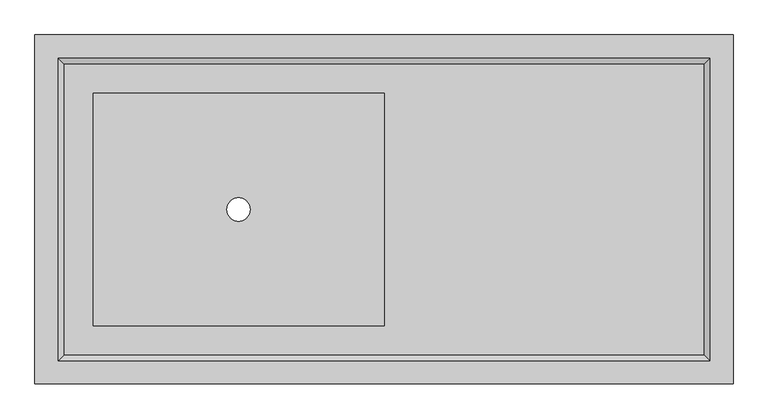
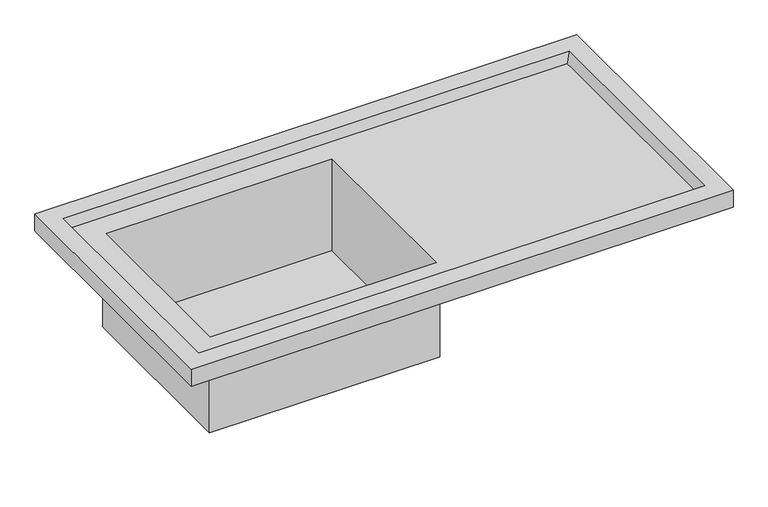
"""IFC4 building model written with IfcOpenShell, lengths in millimetres: flow terminal geometry, BIMHealth-Stainless_Steel_Sink-LOD2A-v1 : BIMHealth-Stainless_Steel_Sink-LOD2A-v1."""

import ifcopenshell
import ifcopenshell.guid

model = None  # the IFC model being written
_history = None  # IfcOwnerHistory: only IFC2X3 demands one
_inside = {}  # id of a spatial element -> (the spatial element, [elements in it])
_under = {}  # id of a project, library or spatial element -> (it, [spatial elements below it])
_declared = {}  # id of a project -> (the project, [libraries it declares])
_typed = {}  # id of a type object -> (the type object, [elements of that type])
_made_of = {}  # id of a material, layer set ... -> (it, [elements and type objects made of it])


def new_model(schema):
    """Start an empty IFC model of exactly this schema.

    Asked for "IFC4X3", IfcOpenShell would pick the latest addendum, in which some entities
    have other attributes; the version numbers below select the first issue.
    IFC2X3 requires an IfcOwnerHistory on every rooted entity: one is made here for all.
    """
    global model, _history
    if schema == "IFC4X3":
        model = ifcopenshell.file(schema_version=(4, 3, 0, 0))
    else:
        model = ifcopenshell.file(schema=schema)
    _inside.clear()
    _under.clear()
    _declared.clear()
    _typed.clear()
    _made_of.clear()
    _history = None
    if model.schema == "IFC2X3":
        org = make("IfcOrganization", Name="unknown")
        user = make(
            "IfcPersonAndOrganization",
            ThePerson=make("IfcPerson", FamilyName="unknown"),
            TheOrganization=org,
        )
        app = make(
            "IfcApplication",
            ApplicationDeveloper=org,
            Version="unknown",
            ApplicationFullName="unknown",
            ApplicationIdentifier="unknown",
        )
        _history = make(
            "IfcOwnerHistory",
            OwningUser=user,
            OwningApplication=app,
            ChangeAction="ADDED",
            CreationDate=0,
        )
    return model


def make(cls, **values):
    """One entity of the class cls with the attributes given. An attribute that is None is left unset."""
    return model.create_entity(
        cls, **{name: value for name, value in values.items() if value is not None}
    )


def rooted(cls, **values):
    """An entity with a GlobalId (a new one), such as an element, a storey or a relation."""
    return make(cls, GlobalId=ifcopenshell.guid.new(), OwnerHistory=_history, **values)


def si_unit(unit_type, name, prefix=None):
    """IfcSIUnit, for example si_unit("LENGTHUNIT", "METRE", prefix="MILLI")."""
    return make("IfcSIUnit", UnitType=unit_type, Prefix=prefix, Name=name)


def assignment(units):
    """IfcUnitAssignment: the units of a project."""
    return None if units is None else make("IfcUnitAssignment", Units=units)


def point(xyz):
    """IfcCartesianPoint."""
    return None if xyz is None else make("IfcCartesianPoint", Coordinates=xyz)


def direction(xyz):
    """IfcDirection."""
    return None if xyz is None else make("IfcDirection", DirectionRatios=xyz)


def frame(location, z_axis=None, x_axis=None):
    """IfcAxis2Placement3D, a coordinate frame: its origin and axes. An axis left out is left unset."""
    return make(
        "IfcAxis2Placement3D",
        Location=point(location),
        Axis=direction(z_axis),
        RefDirection=direction(x_axis),
    )


def origin():
    """The frame at (0, 0, 0) with its axes left unset."""
    return frame((0.0, 0.0, 0.0))


def place(relative_to, where):
    """IfcLocalPlacement: puts the frame where relative to a parent placement (None: the world)."""
    return make(
        "IfcLocalPlacement", PlacementRelTo=relative_to, RelativePlacement=where
    )


def context(
    kind, dimensions, precision=None, world=None, true_north=None, identifier=None
):
    """IfcGeometricRepresentationContext, for example the 3D "Model" context."""
    return make(
        "IfcGeometricRepresentationContext",
        ContextIdentifier=identifier,
        ContextType=kind,
        CoordinateSpaceDimension=dimensions,
        Precision=precision,
        WorldCoordinateSystem=world,
        TrueNorth=true_north,
    )


def project(units=None, contexts=None):
    """IfcProject with its units and contexts."""
    return rooted(
        "IfcProject",
        Name="project",
        RepresentationContexts=contexts,
        UnitsInContext=assignment(units),
    )


def spatial(cls, under=None, at=None, **own):
    """A site, building, storey or space (cls), placed at a placement, below another one or the project."""
    s = rooted(cls, ObjectPlacement=at, **own)
    if under is not None:
        _under.setdefault(under.id(), (under, []))[1].append(s)
    return s


def polyline(points):
    """IfcPolyline through the points."""
    return make("IfcPolyline", Points=[point(p) for p in points])


def circle_curve(where, radius):
    """IfcCircle in the frame where."""
    return make("IfcCircle", Position=where, Radius=radius)


def shape(context_of_items, identifier, shape_type, items):
    """IfcShapeRepresentation: the items that make up one representation, for example the "Body"."""
    return make(
        "IfcShapeRepresentation",
        ContextOfItems=context_of_items,
        RepresentationIdentifier=identifier,
        RepresentationType=shape_type,
        Items=items,
    )


def source(mapping_origin, context_of_items, identifier, shape_type, items):
    """IfcRepresentationMap: a shape defined once, which mapped items show again and again."""
    return make(
        "IfcRepresentationMap",
        MappingOrigin=mapping_origin,
        MappedRepresentation=shape(context_of_items, identifier, shape_type, items),
    )


def transform(
    local_origin,
    x_axis=None,
    y_axis=None,
    z_axis=None,
    scale=None,
    scale2=None,
    scale3=None,
    uniform=True,
):
    """IfcCartesianTransformationOperator3D, or its non-uniform kind. x_axis, y_axis, z_axis: its Axis1, 2, 3."""
    if uniform:
        return make(
            "IfcCartesianTransformationOperator3D",
            Axis1=direction(x_axis),
            Axis2=direction(y_axis),
            LocalOrigin=point(local_origin),
            Scale=scale,
            Axis3=direction(z_axis),
        )
    return make(
        "IfcCartesianTransformationOperator3DnonUniform",
        Axis1=direction(x_axis),
        Axis2=direction(y_axis),
        LocalOrigin=point(local_origin),
        Scale=scale,
        Axis3=direction(z_axis),
        Scale2=scale2,
        Scale3=scale3,
    )


def mapped(mapping_source, mapping_target):
    """IfcMappedItem: shows the shape of a source again, moved by a transform."""
    return make(
        "IfcMappedItem", MappingSource=mapping_source, MappingTarget=mapping_target
    )


def made_of(thing, what):
    """Note that an element or type object is made of a material, layer set ...; save() writes the relation."""
    if what is not None:
        _made_of.setdefault(what.id(), (what, []))[1].append(thing)
    return thing


def element(
    cls,
    number,
    at=None,
    inside=None,
    cuts=None,
    type_object=None,
    material=None,
    context=None,
    identifier="Body",
    shape_type=None,
    held_by="IfcProductDefinitionShape",
    body=None,
    shapes=None,
    **own,
):
    """One element of the class cls, such as IfcWall. Its Tag is "e" and its number.

    at: its placement. inside: the storey or other place that contains it. cuts: it is an
    opening in that element (IfcRelVoidsElement). A single representation is given by context,
    identifier, shape_type and body (its items); several are given by shapes. held_by: the class
    of the entity that holds the representations. save() writes the other relations.
    """
    e = rooted(cls, Tag="e%d" % number, ObjectPlacement=at, **own)
    if body is not None:
        shapes = [shape(context, identifier, shape_type, body)]
    if shapes is not None:
        e.Representation = make(held_by, Representations=shapes)
    if inside is not None:
        _inside.setdefault(inside.id(), (inside, []))[1].append(e)
    if cuts is not None:
        rooted(
            "IfcRelVoidsElement", RelatingBuildingElement=cuts, RelatedOpeningElement=e
        )
    if type_object is not None:
        _typed.setdefault(type_object.id(), (type_object, []))[1].append(e)
    return made_of(e, material)


def aggregate(whole, parts):
    """IfcRelAggregates: a whole, such as a stair, and the parts it consists of."""
    return rooted("IfcRelAggregates", RelatingObject=whole, RelatedObjects=parts)


def save(model, path):
    """Write the relations noted so far, then the file.

    IfcRelAggregates (storeys below a building ...), IfcRelContainedInSpatialStructure (elements
    in a storey), IfcRelDefinesByType, IfcRelAssociatesMaterial and IfcRelDeclares: one each for
    every whole, place, type object, material and project.
    """
    for whole, parts in _under.values():
        aggregate(whole, parts)
    for where, things in _inside.values():
        rooted(
            "IfcRelContainedInSpatialStructure",
            RelatedElements=things,
            RelatingStructure=where,
        )
    for kind, things in _typed.values():
        rooted("IfcRelDefinesByType", RelatedObjects=things, RelatingType=kind)
    for what, things in _made_of.values():
        rooted("IfcRelAssociatesMaterial", RelatedObjects=things, RelatingMaterial=what)
    for by, libraries in _declared.values():
        rooted("IfcRelDeclares", RelatingContext=by, RelatedDefinitions=libraries)
    model.write(path)


def plane_surface(at):
    """IfcPlane: the flat surface through the origin of the frame at, square to its z axis."""
    return make("IfcPlane", Position=at)


def revolved_surface(curve, axis_point, axis_direction):
    """IfcSurfaceOfRevolution: the curve turned about the line through axis_point along axis_direction."""
    return make(
        "IfcSurfaceOfRevolution",
        SweptCurve=make("IfcArbitraryOpenProfileDef", ProfileType="CURVE", Curve=curve),
        AxisPosition=make("IfcAxis1Placement", Location=point(axis_point), Axis=direction(axis_direction)),
    )


def advanced_brep(points, edges, surfaces, faces):
    """IfcAdvancedBrep: a solid bounded by faces that lie on surfaces and meet in shared edges.

    An edge is (start, end): straight between two places in points (the first is 0);
    or (start, end, curve); or (start, end, curve, False) where it runs against its curve.
    A face is (place in surfaces, loops), or (place, loops, False) where it looks against
    its surface's normal. A loop lists edges by number (the first is 1), with a minus sign
    where the edge is run from its end to its start. The first loop is the outer one.
    """
    corners = [point(p) for p in points]
    vertices = [make("IfcVertexPoint", VertexGeometry=c) for c in corners]
    made = []
    for start, end, *more in edges:
        made.append(
            make(
                "IfcEdgeCurve",
                EdgeStart=vertices[start],
                EdgeEnd=vertices[end],
                EdgeGeometry=more[0] if more else make("IfcPolyline", Points=[corners[start], corners[end]]),
                SameSense=more[1] if len(more) > 1 else True,
            )
        )
    hull = []
    for where, loops, *sense in faces:
        bounds = []
        for j, loop in enumerate(loops):
            ring = [make("IfcOrientedEdge", EdgeElement=made[abs(k) - 1], Orientation=k > 0) for k in loop]
            bounds.append(
                make(
                    "IfcFaceOuterBound" if j == 0 else "IfcFaceBound",
                    Bound=make("IfcEdgeLoop", EdgeList=ring),
                    Orientation=True,
                )
            )
        hull.append(make("IfcAdvancedFace", Bounds=bounds, FaceSurface=surfaces[where], SameSense=sense[0] if sense else True))
    return make("IfcAdvancedBrep", Outer=make("IfcClosedShell", CfsFaces=hull))


def flow_terminal_bfc8b4b2(model_context):
    return source(origin(), model_context, "Body", "AdvancedBrep", [
        advanced_brep(
        [(1200.0, 0.0, 900.0), (0.0, 0.0, 900.0), (0.0, -600.0, 900.0), (1200.0, -600.0, 900.0), (40.0, -40.0, 900.0), (1160.0, -40.0, 900.0), (1160.0, -560.0, 900.0), (40.0, -560.0, 900.0), (1200.0, 0.0, 860.0), (1200.0, -600.0, 860.0), (0.0, -600.0, 860.0), (0.0, 0.0, 860.0), (605.0, -95.0, 860.0), (95.0, -95.0, 860.0), (95.0, -505.0, 860.0), (605.0, -505.0, 860.0), (1150.0, -50.0, 880.0), (50.0, -50.0, 880.0), (50.0, -550.0, 880.0), (1150.0, -550.0, 880.0), (600.0, -100.0, 880.0), (600.0, -500.0, 880.0), (100.0, -500.0, 880.0), (100.0, -100.0, 880.0), (600.0, -100.0, 665.0), (600.0, -500.0, 665.0), (100.0, -500.0, 665.0), (100.0, -100.0, 665.0), (605.0, -95.0, 660.0), (95.0, -95.0, 660.0), (95.0, -505.0, 660.0), (605.0, -505.0, 660.0), (330.0, -300.0, 665.0), (370.0, -300.0, 665.0), (330.0, -300.0, 660.0), (370.0, -300.0, 660.0)],
        [
            (0, 1),
            (1, 2),
            (2, 3),
            (3, 0),
            (4, 5),
            (5, 6),
            (6, 7),
            (7, 4),
            (8, 9),
            (9, 10),
            (10, 11),
            (11, 8),
            (12, 13),
            (13, 14),
            (14, 15),
            (15, 12),
            (0, 8),
            (11, 1),
            (10, 2),
            (9, 3),
            (16, 17),
            (17, 18),
            (18, 19),
            (19, 16),
            (20, 21),
            (21, 22),
            (22, 23),
            (23, 20),
            (16, 5),
            (4, 17),
            (7, 18),
            (6, 19),
            (20, 24),
            (24, 25),
            (25, 21),
            (25, 26),
            (26, 22),
            (26, 27),
            (27, 23),
            (27, 24),
            (28, 29),
            (29, 13),
            (12, 28),
            (29, 30),
            (30, 14),
            (30, 31),
            (31, 15),
            (31, 28),
            (32, 33, circle_curve(frame((350.0, -300.0, 665.0), z_axis=(0.0, 0.0, -1.0), x_axis=(1.0, 0.0, 0.0)), 20.0)),
            (33, 32, circle_curve(frame((350.0, -300.0, 665.0), z_axis=(0.0, 0.0, -1.0), x_axis=(1.0, 0.0, 0.0)), 20.0)),
            (34, 35, circle_curve(frame((350.0, -300.0, 660.0), z_axis=(0.0, 0.0, 1.0), x_axis=(1.0, 0.0, 0.0)), 20.0)),
            (35, 34, circle_curve(frame((350.0, -300.0, 660.0), z_axis=(0.0, 0.0, 1.0), x_axis=(1.0, 0.0, 0.0)), 20.0)),
            (32, 34),
            (35, 33),
        ],
        [
            plane_surface(frame((0.0, 0.0, 900.0), z_axis=(0.0, 0.0, 1.0), x_axis=(-1.0, 0.0, 0.0))),
            plane_surface(frame((0.0, 0.0, 860.0), z_axis=(0.0, 0.0, -1.0), x_axis=(1.0, 0.0, 0.0))),
            plane_surface(frame((1200.0, 0.0, 900.0), z_axis=(0.0, 1.0, 0.0), x_axis=(0.0, 0.0, -1.0))),
            plane_surface(frame((0.0, 0.0, 900.0), z_axis=(-1.0, 0.0, 0.0), x_axis=(0.0, 0.0, -1.0))),
            plane_surface(frame((0.0, -600.0, 900.0), z_axis=(0.0, -1.0, 0.0), x_axis=(0.0, 0.0, -1.0))),
            plane_surface(frame((1200.0, -600.0, 900.0), z_axis=(1.0, 0.0, 0.0), x_axis=(0.0, 0.0, -1.0))),
            plane_surface(frame((600.0, -300.0, 880.0), z_axis=(0.0, 0.0, 1.0), x_axis=(-1.0, 0.0, 0.0))),
            plane_surface(frame((600.0, -50.0, 880.0), z_axis=(0.0, -0.8944271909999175, 0.4472135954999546), x_axis=(-1.0, 0.0, 0.0))),
            plane_surface(frame((50.0, -300.0, 880.0), z_axis=(0.8944271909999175, 0.0, 0.4472135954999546), x_axis=(0.0, -1.0, 0.0))),
            plane_surface(frame((600.0, -550.0, 880.0), z_axis=(0.0, 0.8944271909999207, 0.4472135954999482), x_axis=(1.0, 0.0, 0.0))),
            plane_surface(frame((1150.0, -300.0, 880.0), z_axis=(-0.8944271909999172, 0.0, 0.44721359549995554), x_axis=(0.0, 1.0, 0.0))),
            plane_surface(frame((600.0, -100.0, 900.0), z_axis=(-1.0, 0.0, 0.0), x_axis=(0.0, 0.0, -1.0))),
            plane_surface(frame((600.0, -500.0, 900.0), z_axis=(0.0, 1.0, 0.0), x_axis=(0.0, 0.0, -1.0))),
            plane_surface(frame((100.0, -500.0, 900.0), z_axis=(1.0, 0.0, 0.0), x_axis=(0.0, 0.0, -1.0))),
            plane_surface(frame((100.0, -100.0, 900.0), z_axis=(0.0, -1.0, 0.0), x_axis=(0.0, 0.0, -1.0))),
            plane_surface(frame((605.0, -95.0, 860.0), z_axis=(0.0, 1.0, 0.0), x_axis=(0.0, 0.0, -1.0))),
            plane_surface(frame((95.0, -95.0, 860.0), z_axis=(-1.0, 0.0, 0.0), x_axis=(0.0, 0.0, -1.0))),
            plane_surface(frame((95.0, -505.0, 860.0), z_axis=(0.0, -1.0, 0.0), x_axis=(0.0, 0.0, -1.0))),
            plane_surface(frame((605.0, -505.0, 860.0), z_axis=(1.0, 0.0, 0.0), x_axis=(0.0, 0.0, -1.0))),
            plane_surface(frame((95.0, -95.0, 665.0), z_axis=(0.0, 0.0, 1.0), x_axis=(-1.0, 0.0, 0.0))),
            plane_surface(frame((95.0, -95.0, 660.0), z_axis=(0.0, 0.0, -1.0), x_axis=(1.0, 0.0, 0.0))),
            revolved_surface(polyline([(370.0, -300.0, 660.0), (370.0, -300.0, 665.0)]), (350.0, -300.0, 0.0), (0.0, 0.0, -1.0)),
        ],
        [
            (0, [[1, 2, 3, 4], [5, 6, 7, 8]]),
            (1, [[9, 10, 11, 12], [13, 14, 15, 16]]),
            (2, [[-1, 17, -12, 18]]),
            (3, [[-2, -18, -11, 19]]),
            (4, [[-3, -19, -10, 20]]),
            (5, [[-4, -20, -9, -17]]),
            (6, [[21, 22, 23, 24], [25, 26, 27, 28]]),
            (7, [[-21, 29, -5, 30]]),
            (8, [[-22, -30, -8, 31]]),
            (9, [[-23, -31, -7, 32]]),
            (10, [[-24, -32, -6, -29]]),
            (11, [[-25, 33, 34, 35]]),
            (12, [[-26, -35, 36, 37]]),
            (13, [[-27, -37, 38, 39]]),
            (14, [[-28, -39, 40, -33]]),
            (15, [[41, 42, -13, 43]]),
            (16, [[-42, 44, 45, -14]]),
            (17, [[-45, 46, 47, -15]]),
            (18, [[-43, -16, -47, 48]]),
            (19, [[-34, -40, -38, -36], [49, 50]]),
            (20, [[-48, -46, -44, -41], [51, 52]]),
            (21, [[-49, 53, -52, 54]]),
            (21, [[-50, -54, -51, -53]]),
        ],
    ),
    ])


if __name__ == "__main__":
    model = new_model("IFC4")
    model_context = context("Model", 3, world=origin())
    ifc_project = project(units=[si_unit("LENGTHUNIT", "METRE", prefix="MILLI")], contexts=[model_context])
    site = spatial("IfcSite", under=ifc_project)
    building = spatial("IfcBuilding", under=site)
    placement = place(None, origin())
    flow_terminal_shape = flow_terminal_bfc8b4b2(model_context)
    element("IfcFlowTerminal", 1, ObjectType="BIMHealth-Stainless_Steel_Sink-LOD2A-v1 : BIMHealth-Stainless_Steel_Sink-LOD2A-v1", at=placement, inside=building, context=model_context, shape_type="MappedRepresentation", body=[
        mapped(flow_terminal_shape, transform((0.0, 0.0, 0.0), x_axis=(1.0, 0.0, 0.0), y_axis=(0.0, 1.0, 0.0), z_axis=(0.0, 0.0, 1.0))),
    ])
    save(model, "model.ifc")
